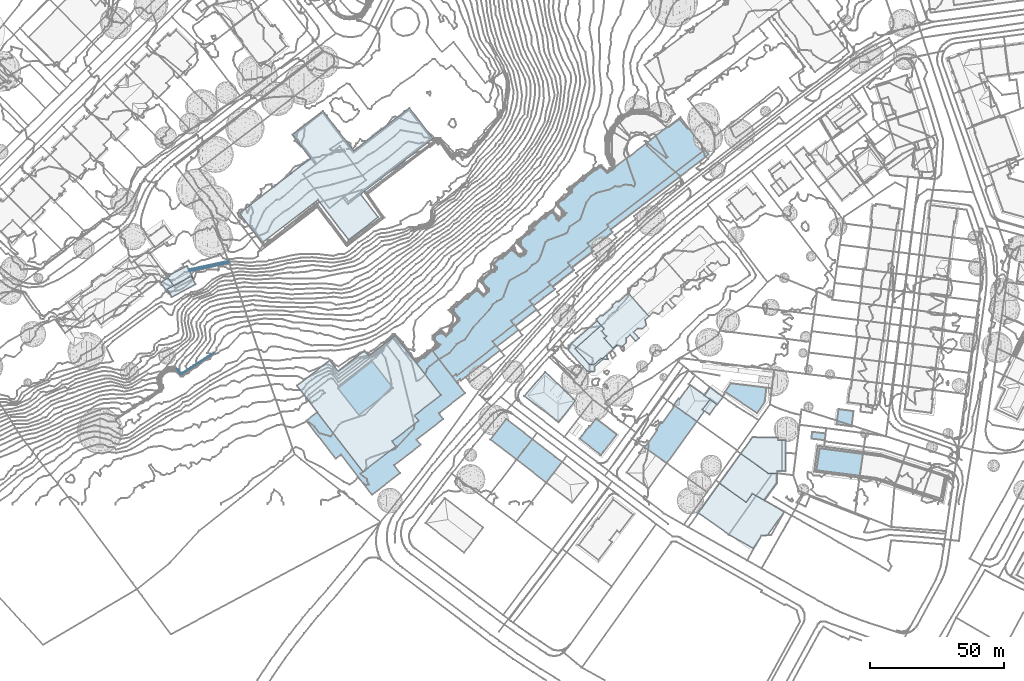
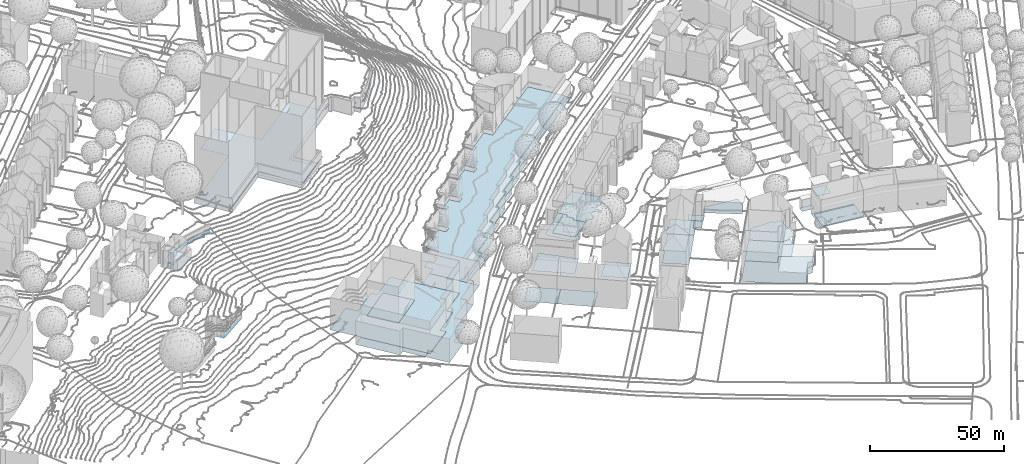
# Not in any storey, part 6 of 494: 26 footings.
"""IFC2X3 model written with IfcOpenShell, lengths in metres."""

from ifc_helpers import new_model, si_unit, frame, origin_with_axes, place, context, subcontext, project, faceted_brep, element, save


model = new_model("IFC2X3")

# Units and contexts
model_context = context("Model", 3, precision=1e-05, world=origin_with_axes())
body_context = subcontext(model_context, "Body", "Model", "MODEL_VIEW")
ifc_project = project(units=[si_unit("AREAUNIT", "SQUARE_METRE"), si_unit("LENGTHUNIT", "METRE")], contexts=[model_context])

# Footings
footing_1_placement = place(None, frame((340.8067320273, 67.2771160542, 499.5586), z_axis=(0.0, 0.0, 1.0), x_axis=(1.0, 0.0, 0.0)))
element("IfcFooting", 1, at=footing_1_placement, Name="Floor 0", PredefinedType="STRIP_FOOTING", context=body_context, shape_type="Brep", body=[
    faceted_brep([(6.0359999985, -10.3291000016, 0.095), (7.5929999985, -9.2568000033, 0.095), (6.2359999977, -10.5556000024, 0.095), (7.5969999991, -9.3476000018, 0.095), (7.3299999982, -9.1816000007, 0.095), (5.9439999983, 5.8046999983, 0.0), (7.3550000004, 7.0566999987, 0.0), (5.9859999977, 5.0351999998, 0.0), (5.8999999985, 5.1328999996, 0.0), (8.0399999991, 7.0283999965, 0.0), (8.1259999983, 6.9316999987, 0.0), (11.7049999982, 10.2568999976, 0.0), (19.4529999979, 1.5312999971, 0.0), (11.699000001, 10.0976999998, 0.0), (12.5170000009, -5.3916000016, 0.0), (2.7839999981, -3.1435000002, 0.0), (15.1950000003, -3.0205000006, 0.0), (0.0379999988, 0.5615999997, 0.0), (1.4869999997, 1.8486999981, 0.0), (0.0, 0.0, 0.0), (2.1490000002, 1.8105999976, 0.0), (2.2349999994, 1.7138999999, 0.0), (3.6270000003, -5.9501000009, 0.0), (1.862999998, -3.9589000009, 0.0), (18.0460000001, 0.2822999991, 0.0), (16.8829999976, -3.1611000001, 0.0), (13.7280000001, -4.3193000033, 0.0), (18.4919999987, -1.7119000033, 0.0), (15.7719999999, -6.5732000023, 0.0), (14.5480000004, -7.6601000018, 0.0), (7.3299999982, -9.1816000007, 0.0), (11.0419999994, -6.6972000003, 0.0), (6.0359999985, -10.3291000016, 0.0), (2.8039999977, -6.6796000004, 0.0), (8.8339999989, -9.6103000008, 0.0), (10.9439999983, -8.3740000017, 0.0), (9.3159999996, -9.8183000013, 0.0), (9.0009999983, -9.7988000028, 0.0)], [[[0, 1, 2]], [[3, 2, 1]], [[0, 4, 1]], [[5, 6, 7]], [[8, 5, 7]], [[9, 10, 6]], [[11, 12, 13]], [[7, 14, 15]], [[6, 10, 7]], [[7, 10, 16]], [[17, 18, 19]], [[20, 21, 18]], [[21, 15, 19]], [[19, 18, 21]], [[22, 23, 15]], [[7, 15, 21]], [[13, 24, 10]], [[24, 25, 16]], [[10, 24, 16]], [[7, 16, 26]], [[14, 7, 26]], [[25, 24, 27]], [[26, 28, 29]], [[29, 14, 26]], [[30, 22, 31]], [[32, 33, 22]], [[22, 30, 32]], [[31, 34, 30]], [[15, 31, 22]], [[34, 31, 35]], [[36, 37, 34]], [[34, 35, 36]], [[31, 15, 14]], [[13, 12, 24]]]),
])
footing_2_placement = place(None, frame((330.2977320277, 56.1951160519, 500.0165), z_axis=(0.0, 0.0, 1.0), x_axis=(1.0, 0.0, 0.0)))
element("IfcFooting", 2, at=footing_2_placement, Name="Floor 0", PredefinedType="STRIP_FOOTING", context=body_context, shape_type="Brep", body=[
    faceted_brep([(2.4809999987, 0.6220999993, -0.028), (12.0229999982, -3.1611000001, -0.028), (7.6979999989, -5.254900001, -0.028), (9.4509999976, -5.4442999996, -0.028), (12.6629999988, -3.0986000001, -0.028), (13.3129999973, 4.4024000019, -0.028), (12.1620000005, 9.2149000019, -0.028), (13.2929999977, 7.938500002, -0.028), (12.3719999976, 7.1231000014, -0.028), (16.7449999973, 0.5263999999, -0.028), (14.1359999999, 5.1319000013, -0.028), (0.1019999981, 1.5967000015, 0.0), (2.4809999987, 0.6220999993, 0.0), (0.0, 0.0, 0.0), (7.6979999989, -5.254900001, 0.0), (10.6409999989, 10.932599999, 0.0), (6.9910000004, -7.8768999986, 0.0), (9.8019999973, -6.0546999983, 0.0), (9.3449999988, -8.0175999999, 0.0), (9.7049999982, -7.7245999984, 0.0), (9.4509999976, -5.4442999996, 0.0), (12.0229999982, -3.1611000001, 0.0), (12.1620000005, 9.2149000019, 0.0), (12.6629999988, -3.0986000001, 0.0), (14.3640000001, -2.9481999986, 0.0), (12.8499999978, -3.316399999, 0.0), (14.6799999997, -3.3037, 0.0), (14.5249999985, -3.4404000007, 0.0), (14.3189999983, -1.6279000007, 0.0)], [[[0, 1, 2]], [[3, 2, 1]], [[4, 1, 5]], [[0, 5, 1]], [[6, 7, 8]], [[8, 0, 6]], [[9, 4, 5]], [[5, 8, 10]], [[5, 0, 8]], [[11, 12, 13]], [[14, 13, 12]], [[15, 12, 11]], [[14, 16, 13]], [[16, 17, 18]], [[17, 19, 18]], [[14, 17, 16]], [[20, 21, 17]], [[20, 17, 14]], [[15, 22, 12]], [[23, 24, 25]], [[25, 21, 23]], [[24, 26, 27]], [[27, 25, 24]], [[28, 24, 23]], [[25, 17, 21]]]),
])
footing_3_placement = place(None, frame((388.6417320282, 40.6092160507, 499.4665), z_axis=(0.0, 0.0, 1.0), x_axis=(1.0, 0.0, 0.0)))
element("IfcFooting", 3, at=footing_3_placement, Name="Floor 0", PredefinedType="STRIP_FOOTING", context=body_context, shape_type="Brep", body=[
    faceted_brep([(11.9599999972, -7.9247999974, 0.0), (2.1380000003, 3.2187000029, 0.0), (14.8159999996, -3.6132999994, 0.0), (15.425999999, 1.5498000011, 0.0), (0.0, 0.0, 0.0)], [[[0, 1, 2]], [[1, 3, 2]], [[0, 4, 1]]]),
])
footing_4_placement = place(None, frame((369.4907320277, 35.7234160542, 499.6315), z_axis=(0.0, 0.0, 1.0), x_axis=(1.0, 0.0, 0.0)))
element("IfcFooting", 4, at=footing_4_placement, Name="Floor 0", PredefinedType="STRIP_FOOTING", context=body_context, shape_type="Brep", body=[
    faceted_brep([(16.2229999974, 0.1318999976, -0.038), (16.629999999, 4.2685999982, -0.038), (18.318, 3.0195999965, -0.038), (11.4210000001, 3.5898999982, -0.038), (13.5739999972, 6.5800999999, -0.038), (10.6519999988, -1.7890000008, -0.021), (11.4769999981, -2.2109000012, -0.021), (11.3949999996, -2.3252000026, -0.021), (13.4670000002, 2.1171999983, -0.021), (16.0519999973, 0.2548999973, -0.021), (13.3389999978, -3.5127000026, -0.021), (11.4210000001, 3.5898999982, 0.0), (10.6519999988, -1.7890000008, 0.0), (4.4399999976, -3.1738000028, 0.0), (13.4670000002, 2.1171999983, 0.0), (2.1679999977, 2.1728999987, 0.0), (5.9979999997, 7.495199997, 0.0), (11.3649999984, -2.3027000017, 0.0), (8.5969999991, -6.1464000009, 0.0), (0.5480000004, -0.3916000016, 0.0), (1.7650000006, 2.4628999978, 0.0), (0.0, 0.0, 0.0)], [[[0, 1, 2]], [[3, 4, 1]], [[1, 0, 3]], [[5, 6, 7]], [[5, 8, 6]], [[9, 10, 6]], [[6, 8, 9]], [[11, 12, 13]], [[12, 11, 14]], [[15, 16, 11]], [[15, 11, 13]], [[17, 18, 12]], [[15, 19, 20]], [[15, 13, 19]], [[21, 20, 19]], [[12, 18, 13]]]),
])
footing_5_placement = place(None, frame((313.8287320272, 39.0809160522, 500.1915), z_axis=(0.0, 0.0, 1.0), x_axis=(1.0, 0.0, 0.0)))
element("IfcFooting", 5, at=footing_5_placement, Name="Floor 0", PredefinedType="STRIP_FOOTING", context=body_context, shape_type="Brep", body=[
    faceted_brep([(18.2580000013, -1.0645000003, 0.0), (18.9620000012, -1.7364000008, 0.0), (12.8499999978, -9.7138999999, 0.0), (14.7749999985, 2.2626999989, 0.0), (0.0, 0.0, 0.0), (12.0370000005, 4.8768999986, 0.0), (7.7670000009, 8.9550000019, 0.0)], [[[0, 1, 2]], [[3, 0, 2]], [[2, 4, 3]], [[3, 4, 5]], [[5, 4, 6]]]),
])
footing_6_placement = place(None, frame((207.679732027, 107.243916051, 526.7712), z_axis=(0.0, 0.0, 1.0), x_axis=(1.0, 0.0, 0.0)))
element("IfcFooting", 6, at=footing_6_placement, Name="Floor 0", PredefinedType="STRIP_FOOTING", context=body_context, shape_type="Brep", body=[
    faceted_brep([(70.1979999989, 26.2774000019, -0.0001), (70.5199999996, 26.6036000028, -0.0001), (70.5579999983, 26.5547000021, -0.0001), (70.1600000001, 26.327200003, -0.0001), (72.0789999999, 27.8008000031, -0.0001), (61.7960000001, 37.9942000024, -0.0001), (63.3579999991, 39.193400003, -0.0001), (61.4549999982, 37.7314999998, -0.0001), (55.8610000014, 33.433600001, -0.0001), (64.6000000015, 22.0567000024, -0.0001), (61.4230000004, 37.7735000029, -0.0001), (64.3000000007, 21.7422000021, -0.0001), (64.6409999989, 22.0039000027, -0.0001), (52.7609999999, 12.8692000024, -0.0001), (52.4279999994, 12.6123000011, -0.0001), (52.379999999, 12.6749000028, -0.0001), (58.7029999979, 17.4375, -0.0001), (58.3619999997, 17.1758000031, -0.0001), (58.6579999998, 17.496100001, -0.0001), (55.5199999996, 33.1709000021, -0.0001), (64.2589999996, 21.7950000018, -0.0001), (49.9210000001, 28.8692000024, -0.0001), (58.3169999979, 17.2344000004, -0.0001), (52.7129999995, 12.9317000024, -0.0001), (43.9780000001, 24.3008000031, -0.0001), (43.6449999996, 24.0450000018, -0.0001), (46.7410000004, 8.3438000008, -0.0001), (42.5669999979, 23.2168000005, -0.0001), (61.7639999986, 38.0362000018, -0.0001), (49.5799999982, 28.6064999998, -0.0001), (49.8920000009, 28.9053000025, -0.0001), (55.4890000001, 33.2110000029, -0.0001), (55.8299999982, 33.4737000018, -0.0001), (49.550999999, 28.6436000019, -0.0001), (43.6169999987, 24.0811000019, -0.0001), (43.9499999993, 24.3370000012, -0.0001), (32.4160000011, 36.5752000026, 0.0), (32.6779999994, 36.2334000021, 0.0), (32.3229999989, 36.5030000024, 0.0), (41.4869999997, 24.6192000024, -0.0001), (41.5639999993, 24.6788000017, -0.0001), (41.8269999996, 24.3370000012, -0.0001), (37.256000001, 30.2803000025, 0.0), (36.9079999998, 30.5567000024, 0.0), (36.9930000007, 30.6231000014, 0.0), (41.75, 24.2774000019, -0.0001), (26.550999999, 20.4101999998, 0.0), (46.4499999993, 8.0157000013, -0.0001), (46.3999999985, 8.0821000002, -0.0001), (46.7910000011, 8.2774000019, -0.0001), (45.1660000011, 7.0274000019, -0.0001), (29.2599999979, 4.9786000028, -0.0001), (45.379999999, 7.192400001, -0.0001), (45.3289999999, 7.2588, -0.0001), (26.5260000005, 20.5206000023, 0.0), (51.7039999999, -1.4736000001, -0.0001), (40.7190000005, -9.9217999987, -0.0001), (25.4849999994, 19.5899000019, 0.0), (25.1440000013, 19.3282000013, 0.0), (19.5390000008, 15.0196000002, 0.0), (8.4690000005, -11.0126999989, -0.0001), (7.6369999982, 5.871100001, 0.0), (19.1979999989, 14.7578999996, 0.0), (13.5839999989, 10.4415000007, 0.0), (13.2509999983, 10.1856000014, 0.0), (7.2879999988, 5.6026000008, 0.0), (13.1909999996, 10.264700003, 0.0), (7.5779999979, 5.9483000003, 0.0), (1.6979999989, 1.3047000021, 0.0), (25.0810000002, 19.4101999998, 0.0), (19.4769999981, 15.0997000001, 0.0), (37.1710000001, 30.2159000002, 0.0), (26.487999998, 20.4922000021, 0.0), (25.4219999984, 19.6719000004, 0.0), (32.5859999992, 36.1631000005, 0.0), (19.7520000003, 29.3311000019, 0.0), (31.1119999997, 38.0743000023, 0.0), (1.3570000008, 1.0430000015, 0.0), (1.6400000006, 1.379900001, 0.0), (1.2989999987, 1.1182000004, 0.0), (0.0, 0.0, 0.0), (19.1359999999, 14.8379000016, 0.0), (13.5229999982, 10.5206000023, 0.0), (7.2289999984, 5.6788000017, 0.0)], [[[0, 1, 2]], [[1, 0, 3]], [[4, 5, 6]], [[7, 1, 3]], [[7, 3, 8]], [[8, 3, 9]], [[7, 5, 1]], [[1, 5, 4]], [[7, 10, 5]], [[11, 9, 12]], [[13, 14, 15]], [[16, 17, 18]], [[19, 20, 21]], [[9, 20, 19]], [[21, 20, 18]], [[18, 17, 22]], [[22, 23, 24]], [[18, 22, 21]], [[13, 15, 23]], [[23, 15, 25]], [[26, 27, 15]], [[9, 11, 20]], [[9, 19, 8]], [[5, 10, 28]], [[29, 21, 22]], [[22, 24, 29]], [[21, 29, 30]], [[31, 32, 19]], [[19, 32, 8]], [[30, 29, 33]], [[25, 34, 35]], [[35, 24, 25]], [[15, 27, 25]], [[36, 37, 38]], [[39, 40, 41]], [[42, 43, 44]], [[39, 41, 45]], [[46, 45, 27]], [[24, 23, 25]], [[47, 48, 49]], [[50, 51, 46]], [[52, 50, 53]], [[53, 27, 48]], [[26, 48, 27]], [[39, 45, 46]], [[26, 49, 48]], [[53, 50, 46]], [[53, 46, 27]], [[46, 54, 39]], [[55, 56, 50]], [[57, 51, 58]], [[57, 46, 51]], [[51, 59, 58]], [[56, 51, 50]], [[51, 60, 61]], [[62, 59, 51]], [[63, 62, 51]], [[64, 51, 61]], [[61, 60, 65]], [[64, 66, 63]], [[64, 63, 51]], [[65, 67, 61]], [[68, 65, 60]], [[58, 69, 57]], [[59, 62, 70]], [[71, 54, 43]], [[71, 39, 54]], [[54, 46, 72]], [[57, 69, 73]], [[54, 74, 43]], [[75, 76, 38]], [[38, 74, 75]], [[75, 74, 54]], [[37, 74, 38]], [[71, 43, 42]], [[68, 77, 78]], [[68, 60, 77]], [[79, 78, 77]], [[80, 77, 60]], [[62, 81, 70]], [[82, 63, 66]], [[65, 83, 67]]]),
])
footing_7_placement = place(None, frame((211.8297320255, 101.9383160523, 526.7541), z_axis=(0.0, 0.0, 1.0), x_axis=(1.0, 0.0, 0.0)))
element("IfcFooting", 7, at=footing_7_placement, Name="Floor 16", PredefinedType="STRIP_FOOTING", context=body_context, shape_type="Brep", body=[
    faceted_brep([(93.6900000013, 43.4589999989, 0.0), (91.6669999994, 40.2412, 0.0), (93.1030000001, 43.7021000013, 0.0), (92.2200000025, 39.9149999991, 0.0), (85.1559999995, 32.0498000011, 0.0), (85.6270000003, 31.621100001, 0.0), (79.0080000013, 26.1094000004, 0.0), (78.9220000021, 25.1425999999, 0.0), (77.5540000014, 27.0381000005, 0.0), (77.6790000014, 27.9521000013, 0.0), (75.3410000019, 26.0830000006, 0.0), (70.7380000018, 31.3691000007, 0.0), (70.8990000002, 32.2324000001, 0.0), (69.9759999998, 31.6328000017, 0.0), (69.8550000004, 30.7969000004, 0.0), (68.9820000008, 31.8183000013, 0.0), (43.5920000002, 12.5654000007, 0.0), (69.0769999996, 32.6875, 0.0), (75.2160000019, 25.1708999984, 0.0), (49.7470000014, 3.6680000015, 0.0), (48.870000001, 3.8192999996, 0.0), (35.5850000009, -6.5419999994, 0.0), (35.7190000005, -5.6611000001, 0.0), (42.7239999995, 12.7030999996, 0.0), (24.8300000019, 7.7958999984, 0.0), (5.3460000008, -6.2685999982, 0.0), (24.9539999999, 8.6893999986, 0.0), (5.2149999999, -7.1689999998, 0.0), (0.0, 0.0, 0.0), (0.5140000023, 0.3740000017, 0.0)], [[[0, 1, 2]], [[0, 3, 1]], [[4, 5, 6]], [[4, 1, 5]], [[1, 3, 5]], [[6, 5, 7]], [[8, 9, 6]], [[7, 8, 6]], [[10, 11, 12]], [[13, 14, 15]], [[15, 16, 17]], [[17, 13, 15]], [[9, 8, 10]], [[12, 11, 13]], [[14, 13, 11]], [[11, 10, 18]], [[10, 8, 18]], [[19, 20, 16]], [[19, 21, 20]], [[22, 20, 21]], [[17, 16, 23]], [[23, 16, 20]], [[24, 25, 26]], [[22, 24, 26]], [[27, 28, 25]], [[25, 24, 27]], [[29, 25, 28]], [[24, 22, 21]]]),
])
footing_8_placement = place(None, frame((211.8297320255, 101.9383160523, 526.7541), z_axis=(0.0, 0.0, 1.0), x_axis=(1.0, 0.0, 0.0)))
element("IfcFooting", 8, at=footing_8_placement, Name="Floor 17", PredefinedType="STRIP_FOOTING", context=body_context, shape_type="Brep", body=[
    faceted_brep([(-23.0159999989, -15.6611000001, -0.6119), (-7.8469999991, -13.1435999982, -0.6119), (-22.8649999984, -16.3652999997, -0.6119), (-7.9979999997, -12.4395000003, -0.6119)], [[[0, 1, 2]], [[1, 0, 3]]]),
])
footing_9_placement = place(None, frame((211.8297320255, 101.9383160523, 526.7541), z_axis=(0.0, 0.0, 1.0), x_axis=(1.0, 0.0, 0.0)))
element("IfcFooting", 9, at=footing_9_placement, Name="Floor 18", PredefinedType="STRIP_FOOTING", context=body_context, shape_type="Brep", body=[
    faceted_brep([(-13.8379999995, -46.5898999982, -17.0634), (-13.6510000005, -46.8759999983, -17.0634), (-26.0409999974, -54.9580000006, -17.0634)], [[[0, 1, 2]]]),
])
footing_10_placement = place(None, frame((211.8297320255, 101.9383160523, 526.7541), z_axis=(0.0, 0.0, 1.0), x_axis=(1.0, 0.0, 0.0)))
element("IfcFooting", 10, at=footing_10_placement, Name="Floor 19", PredefinedType="STRIP_FOOTING", context=body_context, shape_type="Brep", body=[
    faceted_brep([(-26.367999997, -53.6319000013, -17.0634), (-26.6359999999, -53.8544999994, -17.0634), (-27.7089999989, -52.5527999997, -17.0633), (-25.9169999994, -54.4677999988, -17.0634), (-13.8379999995, -46.5898999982, -17.0634), (-26.0409999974, -54.9580000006, -17.0634)], [[[0, 1, 2]], [[0, 3, 1]], [[4, 5, 3]], [[5, 1, 3]]]),
])
footing_11_placement = place(None, frame((386.5667320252, 6.5633160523, 499.0235), z_axis=(0.0, 0.0, 1.0), x_axis=(1.0, 0.0, 0.0)))
element("IfcFooting", 11, at=footing_11_placement, Name="Floor 0", PredefinedType="STRIP_FOOTING", context=body_context, shape_type="Brep", body=[
    faceted_brep([(7.8980000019, 11.0351000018, 0.0), (15.012000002, 5.9472000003, 0.0), (0.0, 0.0, 0.0), (12.2230000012, -3.8456999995, 0.0), (7.1210000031, -5.0947000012, 0.0), (9.9030000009, -7.0859999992, 0.0), (18.1740000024, 3.6854999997, 0.0), (21.393000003, 3.6981999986, 0.0), (21.2810000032, 0.3359000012, 0.0), (16.7939999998, -6.4395000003, 0.0), (16.6450000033, -6.1513999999, 0.0), (16.8920000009, -6.3027999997, 0.0)], [[[0, 1, 2]], [[1, 3, 2]], [[4, 3, 5]], [[2, 3, 4]], [[1, 6, 3]], [[7, 8, 6]], [[9, 3, 10]], [[10, 11, 9]], [[8, 10, 3]], [[3, 6, 8]]]),
])
footing_12_placement = place(None, frame((378.6967320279, -4.4298839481, 499.0235), z_axis=(0.0, 0.0, 1.0), x_axis=(1.0, 0.0, 0.0)))
element("IfcFooting", 12, at=footing_12_placement, Name="Floor 0", PredefinedType="STRIP_FOOTING", context=body_context, shape_type="Brep", body=[
    faceted_brep([(31.9169999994, 0.3066999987, 0.0), (25.7539999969, -8.3183000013, 0.0), (29.0299999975, 2.0751999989, 0.0), (23.425999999, -8.5088, 0.0), (21.5539999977, 6.3183999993, 0.0), (17.7729999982, 3.9072000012, 0.0), (20.0929999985, 7.1475000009, 0.0), (7.8699999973, 10.9932000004, 0.0), (7.1319999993, -5.0986000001, 0.0), (24.1999999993, -8.4648000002, 0.0), (11.6140000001, -8.3007999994, 0.0), (22.2249999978, -10.6083999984, 0.0), (20.3409999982, -13.2430999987, 0.0), (0.0, 0.0, 0.0), (11.3049999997, -8.0790999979, 0.0)], [[[0, 1, 2]], [[3, 4, 2]], [[3, 5, 4]], [[4, 5, 6]], [[7, 5, 8]], [[9, 2, 1]], [[3, 10, 5]], [[11, 10, 3]], [[11, 12, 10]], [[8, 13, 7]], [[5, 10, 14]], [[8, 5, 14]], [[9, 3, 2]]]),
])
footing_13_placement = place(None, frame((394.4647320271, 17.5984160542, 499.0235), z_axis=(0.0, 0.0, 1.0), x_axis=(1.0, 0.0, 0.0)))
element("IfcFooting", 13, at=footing_13_placement, Name="Floor 0", PredefinedType="STRIP_FOOTING", context=body_context, shape_type="Brep", body=[
    faceted_brep([(0.0, 0.0, 0.0), (3.7740000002, 5.2734999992, 0.0), (10.2760000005, -7.3496000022, 0.0), (13.938000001, 5.995199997, 0.0), (4.3720000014, 6.1025999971, 0.0), (13.9409999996, 5.0370999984, 0.0), (11.7419999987, -7.3427000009, 0.0), (13.6490000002, -6.4091000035, 0.0), (12.8969999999, -7.3437000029, 0.0), (11.8640000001, -7.3427000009, 0.0), (13.495000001, -7.3369000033, 0.0), (15.4910000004, 5.0146999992, 0.0), (15.3619999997, -6.433600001, 0.0), (16.7879999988, 4.995199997, 0.0), (13.6359999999, -7.3623000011, 0.0), (16.6579999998, -6.4521000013, 0.0), (13.493999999, -7.3613000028, 0.0)], [[[0, 1, 2]], [[3, 1, 4]], [[2, 1, 5]], [[6, 2, 7]], [[8, 9, 7]], [[6, 7, 9]], [[1, 3, 5]], [[5, 7, 2]], [[7, 10, 8]], [[11, 12, 7]], [[11, 7, 5]], [[11, 13, 12]], [[7, 14, 10]], [[12, 13, 15]], [[14, 16, 10]]]),
])
footing_14_placement = place(None, frame((420.8027320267, 23.1951160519, 499.3155), z_axis=(0.0, 0.0, 1.0), x_axis=(1.0, 0.0, 0.0)))
element("IfcFooting", 14, at=footing_14_placement, Name="Floor 0", PredefinedType="STRIP_FOOTING", context=body_context, shape_type="Brep", body=[
    faceted_brep([(5.0469999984, -0.6405999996, 0.0), (0.0, 0.0, 0.0), (5.3189999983, 1.8975000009, 0.0), (0.3220000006, 2.5313000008, 0.0)], [[[0, 1, 2]], [[3, 2, 1]]]),
])
footing_15_placement = place(None, frame((310.929732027, 15.368916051, 513.3392), z_axis=(0.0, 0.0, 1.0), x_axis=(1.0, 0.0, 0.0)))
element("IfcFooting", 15, at=footing_15_placement, Name="Floor 0", PredefinedType="STRIP_FOOTING", context=body_context, shape_type="Brep", body=[
    faceted_brep([(13.9970000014, -4.753899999, -12.7678), (11.0769999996, -8.5653999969, -12.7678), (0.0, 0.0, -12.7677), (10.8709999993, 3.7735000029, -12.7678), (14.2729999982, 1.1446000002, -12.7678), (16.938000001, -0.9149999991, -12.7678), (2.9210000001, 3.8106000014, -12.7677), (5.8610000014, 7.6456000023, -12.7677)], [[[0, 1, 2]], [[3, 4, 0]], [[0, 4, 5]], [[6, 3, 0]], [[3, 6, 7]], [[0, 2, 6]]]),
])
footing_16_placement = place(None, frame((301.1767320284, 22.9119160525, 500.5715), z_axis=(0.0, 0.0, 1.0), x_axis=(1.0, 0.0, 0.0)))
element("IfcFooting", 16, at=footing_16_placement, Name="Floor 0", PredefinedType="STRIP_FOOTING", context=body_context, shape_type="Brep", body=[
    faceted_brep([(9.7529999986, -7.5430000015, 0.0), (0.0, 0.0, 0.0), (12.6739999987, -3.7324000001, 0.0), (5.8659999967, 7.5850000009, 0.0), (15.6140000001, 0.1026000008, 0.0)], [[[0, 1, 2]], [[2, 3, 4]], [[3, 2, 1]]]),
])
footing_17_placement = place(None, frame((334.417732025, 23.1512160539, 500.1795), z_axis=(0.0, 0.0, 1.0), x_axis=(1.0, 0.0, 0.0)))
element("IfcFooting", 17, at=footing_17_placement, Name="Floor 0", PredefinedType="STRIP_FOOTING", context=body_context, shape_type="Brep", body=[
    faceted_brep([(12.5370000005, -0.1338, 0.0), (11.0450000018, -2.0791000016, 0.0), (10.7310000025, 3.9375, 0.0), (13.8380000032, 1.5643999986, 0.0), (3.8630000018, 4.5702999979, 0.0), (8.2170000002, 5.8574000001, 0.0), (6.0840000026, 7.4862999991, 0.0), (2.5240000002, 3.3055999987, 0.0), (3.6270000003, 4.75, 0.0), (4.0270000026, -3.0752000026, 0.0), (9.7310000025, -3.7959000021, 0.0), (8.8570000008, -4.9356000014, 0.0), (7.6610000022, -5.8506000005, 0.0), (7.7160000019, -5.8936000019, 0.0), (7.9730000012, -6.0899000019, 0.0), (0.0, 0.0, 0.0)], [[[0, 1, 2]], [[2, 3, 0]], [[2, 4, 5]], [[5, 4, 6]], [[7, 8, 4]], [[4, 2, 9]], [[9, 7, 4]], [[2, 1, 9]], [[10, 11, 12]], [[12, 11, 13]], [[11, 14, 13]], [[10, 12, 9]], [[15, 7, 9]], [[1, 10, 9]]]),
])
footing_18_placement = place(None, frame((430.1957320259, 28.5057160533, 499.7544), z_axis=(0.0, 0.0, 1.0), x_axis=(1.0, 0.0, 0.0)))
element("IfcFooting", 18, at=footing_18_placement, Name="Floor 0", PredefinedType="STRIP_FOOTING", context=body_context, shape_type="Brep", body=[
    faceted_brep([(6.3170000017, 4.9305999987, 0.0), (0.0, 0.0, 0.0), (0.7470000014, 5.6649999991, 0.0), (5.6220000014, -0.7412, 0.0)], [[[0, 1, 2]], [[1, 0, 3]]]),
])
footing_19_placement = place(None, frame((358.3217320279, 20.123816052, 499.6315), z_axis=(0.0, 0.0, 1.0), x_axis=(1.0, 0.0, 0.0)))
element("IfcFooting", 19, at=footing_19_placement, Name="Floor 0", PredefinedType="STRIP_FOOTING", context=body_context, shape_type="Brep", body=[
    faceted_brep([(15.6089999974, 12.4248000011, 0.0), (5.0409999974, 6.2529999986, 0.0), (6.935999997, 8.884800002, 0.0), (11.424999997, 15.1182000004, 0.0), (11.7170000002, 15.2071000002, 0.0), (11.1939999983, 15.5811000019, 0.0), (19.7679999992, 9.4550999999, 0.0), (8.5529999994, -6.121100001, 0.0), (11.0289999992, 15.4033000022, 0.0), (11.1689999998, 15.5996000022, 0.0), (5.612999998, 7.8399000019, 0.0), (6.557, 9.1581999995, 0.0), (0.5859999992, -0.4188999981, 0.0), (0.5869999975, 0.066399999, 0.0), (4.3979999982, -3.1473999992, 0.0), (0.0, 0.0, 0.0), (0.231999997, 0.3233000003, 0.0), (4.810999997, 6.7197999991, 0.0), (4.6689999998, 6.5205000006, 0.0)], [[[0, 1, 2]], [[2, 3, 4]], [[4, 0, 2]], [[3, 5, 4]], [[6, 7, 0]], [[5, 8, 9]], [[5, 3, 8]], [[10, 11, 2]], [[1, 12, 13]], [[1, 10, 2]], [[0, 14, 1]], [[15, 13, 12]], [[12, 1, 14]], [[13, 15, 16]], [[17, 10, 1]], [[1, 18, 17]], [[0, 7, 14]]]),
])
footing_20_placement = place(None, frame((178.2397320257, 81.0750160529, 523.9414), z_axis=(0.0, 0.0, 1.0), x_axis=(1.0, 0.0, 0.0)))
element("IfcFooting", 20, at=footing_20_placement, Name="Floor 0", PredefinedType="STRIP_FOOTING", context=body_context, shape_type="Brep", body=[
    faceted_brep([(0.2149999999, 0.1563000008, 0.0), (0.1559999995, 0.2373000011, 0.0), (2.7190000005, 2.1699000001, 0.0), (0.8220000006, -0.7118999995, 0.0), (0.4739999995, -0.629900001, 0.0), (0.0, 0.0, 0.0), (1.9979999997, -2.3300999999, 0.0), (2.5390000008, -2.120099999, 0.0), (4.9600000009, -0.8066000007, 0.0), (3.3790000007, -3.6669999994, 0.0), (2.6180000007, -3.1552999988, 0.0), (1.9710000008, -2.6182000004, 0.0), (2.4609999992, -3.2695000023, 0.0), (3.125, -3.8524999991, 0.0), (12.3430000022, 1.7558999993, 0.434), (11.438000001, 2.7109000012, 0.434), (10.9700000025, 4.378899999, 0.434), (12.0439999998, 1.5938000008, 0.434), (10.9450000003, 4.4257999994, 0.434), (4.9600000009, -0.8066000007, 0.434), (9.8520000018, 6.5137000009, 0.434), (3.4539999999, 2.7236000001, 0.434), (3.2140000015, 3.0429999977, 0.434), (2.7190000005, 2.1699000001, 0.434), (3.3790000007, -3.6669999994, -0.227), (2.5390000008, -2.120099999, -0.227), (3.432, -3.6279000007, -0.227), (11.438000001, 2.7109000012, -0.227), (13.0890000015, -0.3300999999, -0.227), (4.2340000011, -5.1387000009, -0.227)], [[[0, 1, 2]], [[2, 3, 0]], [[0, 4, 5]], [[6, 3, 7]], [[3, 4, 0]], [[2, 7, 3]], [[7, 2, 8]], [[9, 10, 7]], [[11, 10, 12]], [[10, 9, 13]], [[10, 11, 6]], [[6, 7, 10]], [[14, 15, 16]], [[14, 17, 15]], [[18, 16, 19]], [[20, 18, 19]], [[15, 19, 16]], [[21, 20, 19]], [[20, 21, 22]], [[19, 23, 21]], [[24, 25, 26]], [[27, 28, 26]], [[26, 25, 27]], [[28, 29, 26]]]),
])
footing_21_placement = place(None, frame((287.111732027, 46.2742160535, 500.3625), z_axis=(0.0, 0.0, 1.0), x_axis=(1.0, 0.0, 0.0)))
element("IfcFooting", 21, at=footing_21_placement, Name="Floor 0", PredefinedType="STRIP_FOOTING", context=body_context, shape_type="Brep", body=[
    faceted_brep([(22.9389999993, 19.373999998, 0.0), (31.2809999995, 25.0595999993, 0.0), (23.5199999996, 19.0859999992, 0.0), (14.9120000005, 13.1963, 0.0), (23.5540000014, 19.0409999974, 0.0), (23.4169999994, 18.936499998, 0.0), (21.7800000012, 20.8798999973, 0.0), (30.180999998, 26.4892999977, 0.0), (16.1149999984, 11.6327999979, 0.0), (34.0, 29.4287, 0.0), (30.2039999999, 26.5136999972, 0.0), (29.7670000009, 27.0273999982, 0.0), (37.3959999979, 33.5605999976, 0.0), (28.7509999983, 28.3476999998, 0.0), (37.3500000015, 33.7157999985, 0.0), (1.2320000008, 0.9492000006, 0.0), (1.6050000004, 0.4657999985, 0.0), (0.0, 0.0, 0.0), (1.6099999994, -1.8729999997, 0.0), (1.998999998, -2.3779000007, 0.0), (1.8920000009, -2.4599000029, 0.0), (2.7769999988, -0.9765000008, 0.0), (24.5659999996, 17.436499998, 0.0), (16.6169999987, 11.3145000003, 0.0), (17.7509999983, 9.8407999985, 0.0), (3.1019999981, -1.3984000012, 0.0), (58.932, 54.9345999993, 0.0), (58.943, 54.7890999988, 0.0), (51.1259999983, 48.7148999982, 0.0), (50.3110000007, 49.7714999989, 0.0), (59.6220000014, 53.9013999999, 0.0), (51.7800000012, 47.8662, 0.0), (43.0359999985, 42.4872999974, 0.0), (43.8249999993, 41.4657999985, 0.0), (57.6119999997, 56.6493999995, 0.0), (94.0659999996, 84.7060999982, 0.0), (58.2199999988, 55.8594000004, 0.0), (95.4860000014, 82.8574000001, 0.0), (59.006000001, 54.8378999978, 0.0), (45.1600000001, 39.7275999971, 0.0), (36.5020000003, 34.3154000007, 0.0), (35.7699999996, 35.2655999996, 0.0), (44.4059999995, 40.7099999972, 0.0), (38.131000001, 32.6006000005, 0.0), (37.4419999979, 33.5956999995, 0.0), (51.7580000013, 47.7001999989, 0.0), (52.3969999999, 46.8603999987, 0.0), (51.8519999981, 47.7724999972, 0.0)], [[[0, 1, 2]], [[0, 2, 3]], [[2, 4, 5]], [[5, 3, 2]], [[6, 7, 0]], [[5, 8, 3]], [[9, 10, 11]], [[9, 11, 12]], [[10, 7, 11]], [[6, 11, 7]], [[0, 7, 1]], [[13, 14, 11]], [[15, 16, 17]], [[16, 18, 17]], [[18, 19, 20]], [[20, 17, 18]], [[16, 21, 18]], [[22, 23, 8]], [[8, 5, 22]], [[21, 16, 23]], [[24, 25, 21]], [[21, 23, 24]], [[16, 8, 23]], [[26, 27, 28]], [[28, 29, 26]], [[27, 30, 28]], [[31, 32, 28]], [[28, 30, 31]], [[31, 33, 32]], [[34, 35, 36]], [[29, 36, 26]], [[35, 37, 36]], [[27, 26, 38]], [[26, 36, 37]], [[39, 14, 40]], [[40, 41, 42]], [[12, 11, 14]], [[9, 12, 43]], [[12, 14, 44]], [[40, 14, 13]], [[33, 45, 46]], [[45, 31, 47]], [[40, 42, 39]], [[42, 33, 46]], [[41, 33, 42]], [[45, 33, 31]]]),
])
footing_22_placement = place(None, frame((287.111732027, 46.2742160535, 500.3625), z_axis=(0.0, 0.0, 1.0), x_axis=(1.0, 0.0, 0.0)))
element("IfcFooting", 22, at=footing_22_placement, Name="Floor 1", PredefinedType="STRIP_FOOTING", context=body_context, shape_type="Brep", body=[
    faceted_brep([(-33.4110000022, -35.375, 0.271), (-22.550999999, -24.0175999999, 0.271), (-21.1009999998, -25.9004000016, 0.271), (-14.2050000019, -14.4053000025, 0.271), (-12.6649999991, -16.4072000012, 0.271), (-42.6979999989, 2.1601999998, 0.2711), (-13.7170000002, 5.3818999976, 0.271), (-4.3040000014, -6.7851000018, 0.271), (-13.6860000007, 5.4052999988, 0.271), (-31.2890000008, 7.7841999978, 0.2711), (-50.3640000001, -13.1611000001, 0.271), (-50.4539999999, -13.2303999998, 0.271), (-57.9750000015, -3.2422000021, 0.2711), (-45.7670000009, 6.1103999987, 0.2711), (-42.7219999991, 2.1405999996, 0.2711), (-21.3920000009, 15.3955000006, 0.2711), (-32.8040000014, 9.7626999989, 0.2711)], [[[0, 1, 2]], [[1, 3, 4]], [[1, 5, 3]], [[3, 6, 7]], [[8, 7, 6]], [[3, 9, 6]], [[0, 10, 1]], [[10, 0, 11]], [[12, 13, 14]], [[14, 10, 12]], [[5, 1, 14]], [[6, 9, 15]], [[16, 9, 5]], [[5, 9, 3]], [[14, 1, 10]]]),
])
footing_23_placement = place(None, frame((287.111732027, 46.2742160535, 500.3625), z_axis=(0.0, 0.0, 1.0), x_axis=(1.0, 0.0, 0.0)))
element("IfcFooting", 23, at=footing_23_placement, Name="Floor 2", PredefinedType="STRIP_FOOTING", context=body_context, shape_type="Brep", body=[
    faceted_brep([(-42.6830000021, -4.2099000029, 1.8109), (-22.0850000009, -4.2148000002, 1.8109), (-34.8139999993, -14.2206999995, 1.8109), (-29.9539999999, 5.7969000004, 1.8109)], [[[0, 1, 2]], [[1, 0, 3]]]),
])
footing_24_placement = place(None, frame((287.111732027, 46.2742160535, 500.3625), z_axis=(0.0, 0.0, 1.0), x_axis=(1.0, 0.0, 0.0)))
element("IfcFooting", 24, at=footing_24_placement, Name="Floor 3", PredefinedType="STRIP_FOOTING", context=body_context, shape_type="Brep", body=[
    faceted_brep([(-13.5780000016, 5.2626999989, 0.271), (-7.5949999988, 9.8671999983, 0.271), (-4.3040000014, -6.7851000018, 0.271), (-14.2050000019, -14.4053000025, 0.271), (-5.0399999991, -13.5381000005, 0.271), (-12.6649999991, -16.4072000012, 0.271), (-13.3770000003, -23.3603000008, 0.271), (-22.550999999, -24.0175999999, 0.271), (4.6689999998, -6.067400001, 0.271), (-54.4660000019, -16.3104999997, 0.271), (-41.5800000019, -29.0331999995, 0.271), (-43.5249999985, -30.5293000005, 0.271), (-50.4539999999, -13.2303999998, 0.271), (-41.4739999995, -29.0820000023, 0.271), (-41.5170000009, -29.1152000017, 0.271), (-33.4110000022, -35.375, 0.271), (-30.0280000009, -43.9521000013, 0.271), (-4.9169999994, -13.6992000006, 0.271), (-5.0069999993, -13.7685000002, 0.271), (-3.4820000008, -15.7529000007, 0.271), (-21.1009999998, -25.9004000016, 0.271), (-21.7740000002, -32.9541000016, 0.271), (-13.3530000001, -23.3993999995, 0.271), (-11.8669999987, -25.3359000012, 0.271), (-19.5309999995, -35.8729999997, 0.271)], [[[0, 1, 2]], [[3, 2, 4]], [[5, 6, 7]], [[5, 3, 4]], [[8, 2, 1]], [[9, 10, 11]], [[9, 12, 10]], [[13, 14, 10]], [[13, 15, 16]], [[10, 12, 13]], [[12, 15, 13]], [[4, 17, 18]], [[4, 2, 8]], [[5, 18, 19]], [[5, 19, 6]], [[20, 7, 6]], [[15, 20, 21]], [[20, 6, 22]], [[20, 22, 23]], [[21, 20, 23]], [[16, 21, 24]], [[16, 15, 21]], [[18, 5, 4]]]),
])
footing_25_placement = place(None, frame((287.111732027, 46.2742160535, 500.3625), z_axis=(0.0, 0.0, 1.0), x_axis=(1.0, 0.0, 0.0)))
element("IfcFooting", 25, at=footing_25_placement, Name="Floor 4", PredefinedType="STRIP_FOOTING", context=body_context, shape_type="Brep", body=[
    faceted_brep([(94.0659999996, 84.7060999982, 0.246), (79.8079999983, 92.7793000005, 0.246), (84.8759999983, 96.6719000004, 0.246), (73.8330000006, 88.1933999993, 0.246), (65.881000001, 82.0907999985, 0.246), (59.9290000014, 77.5224999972, 0.246), (57.6119999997, 56.6493999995, 0.246), (57.987999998, 76.0321999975, 0.246), (41.8640000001, 60.2568999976, 0.246), (79.7149999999, 92.9023999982, 0.246), (59.8550000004, 77.6171999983, 0.246), (51.1259999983, 48.7148999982, 0.246), (43.0359999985, 42.4872999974, 0.246), (50.3110000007, 49.7714999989, 0.246), (13.373999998, 31.8007999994, 0.246), (27.3409999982, 46.2196999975, 0.246), (58.2199999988, 55.8594000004, 0.246), (57.8099999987, 76.0429999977, 0.246), (39.8319999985, 58.6923999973, 0.246), (30.1050000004, 54.7196999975, 0.2461), (57.9169999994, 76.125, 0.246), (65.805999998, 82.1972999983, 0.246), (48.7690000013, 73.6845999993, 0.2461), (55.5920000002, 78.9257999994, 0.2461), (73.7399999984, 88.3037, 0.246), (44.4690000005, 68.7021999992, 0.2461), (38.7520000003, 64.3017999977, 0.2461), (29.3720000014, 55.6719000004, 0.2461), (37.4019999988, 61.8515999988, 0.2461), (44.305999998, 68.9091999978, 0.2461), (43.6530000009, 69.753899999, 0.2461), (43.8249999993, 41.4657999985, 0.246), (35.7699999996, 35.2655999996, 0.246), (14.9120000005, 13.1963, 0.246), (21.7800000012, 20.8798999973, 0.246), (22.9389999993, 19.373999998, 0.246), (-5.1009999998, 11.7870999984, 0.246), (36.5020000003, 34.3154000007, 0.246), (28.7509999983, 28.3476999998, 0.246), (29.7670000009, 27.0273999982, 0.246), (2.631000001, 20.9150999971, 0.246), (1.6050000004, 0.4657999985, 0.246), (1.2320000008, 0.9492000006, 0.246), (16.1149999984, 11.6327999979, 0.246), (0.0, 0.0, 0.246), (-7.5949999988, 9.8671999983, 0.246), (-0.1440000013, 17.2118999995, 0.246), (-2.5910000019, 15.3271999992, 0.246), (-7.251000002, 14.5810999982, 0.246), (25.2809999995, 44.6347999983, 0.246), (10.425999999, 35.6308999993, 0.246), (16.2939999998, 40.1464999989, 0.246), (22.7939999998, 47.8671999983, 0.246), (24.2609999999, 50.2216999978, 0.2461), (14.9800000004, 41.8544999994, 0.2461), (-0.9030000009, 18.1963, 0.246), (-3.9640000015, 17.1112999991, 0.246), (11.3370000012, 30.4052999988, 0.246), (11.4160000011, 30.2949000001, 0.246), (9.6420000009, 32.5976999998, 0.246), (-0.4759999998, 24.9521999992, 0.246)], [[[0, 1, 2]], [[0, 3, 1]], [[0, 4, 3]], [[5, 4, 6]], [[7, 5, 8]], [[3, 9, 1]], [[4, 0, 6]], [[4, 5, 10]], [[11, 12, 13]], [[14, 13, 12]], [[6, 13, 15]], [[13, 6, 16]], [[8, 17, 7]], [[18, 8, 15]], [[6, 15, 8]], [[8, 5, 6]], [[19, 18, 15]], [[20, 7, 17]], [[10, 21, 4]], [[22, 23, 17]], [[9, 3, 24]], [[25, 8, 26]], [[27, 28, 19]], [[8, 25, 17]], [[25, 29, 22]], [[22, 17, 25]], [[30, 22, 29]], [[19, 28, 18]], [[31, 32, 12]], [[33, 34, 35]], [[33, 36, 34]], [[12, 32, 14]], [[37, 38, 32]], [[39, 34, 38]], [[32, 38, 40]], [[36, 38, 34]], [[41, 42, 43]], [[44, 45, 42]], [[36, 33, 42]], [[46, 36, 47]], [[36, 42, 45]], [[36, 46, 38]], [[48, 47, 36]], [[43, 42, 33]], [[38, 46, 40]], [[15, 14, 49]], [[14, 50, 51]], [[51, 49, 14]], [[14, 15, 13]], [[49, 51, 52]], [[15, 53, 19]], [[52, 51, 54]], [[40, 46, 55]], [[48, 56, 47]], [[40, 57, 58]], [[59, 57, 60]], [[60, 57, 40]], [[58, 14, 40]], [[32, 40, 14]]]),
])
footing_26_placement = place(None, frame((421.872732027, 10.8992160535, 499.1825), z_axis=(0.0, 0.0, 1.0), x_axis=(1.0, 0.0, 0.0)))
element("IfcFooting", 26, at=footing_26_placement, Name="Floor 0", PredefinedType="STRIP_FOOTING", context=body_context, shape_type="Brep", body=[
    faceted_brep([(0.0, 0.0, 0.0), (1.2699999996, 9.6074000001, 0.0), (2.0320000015, 8.6543000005, 0.0), (0.8189999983, 0.4648999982, 0.0), (0.1770000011, -0.0224000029, 0.0), (16.875, -2.2402000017, -0.0001), (18.2749999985, 7.3105999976, 0.0), (18.1640000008, 6.557599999, 0.0), (17.0190000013, -1.5713, -0.0001), (16.9239999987, -2.246100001, -0.0001), (2.0320000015, 8.6543000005, 0.031), (17.6270000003, 2.7470999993, 0.0309), (0.8189999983, 0.4648999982, 0.031), (17.0190000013, -1.5713, 0.0309), (18.1640000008, 6.557599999, 0.0309)], [[[0, 1, 2]], [[3, 4, 0]], [[3, 0, 2]], [[3, 5, 4]], [[6, 7, 2]], [[2, 1, 6]], [[8, 9, 5]], [[3, 8, 5]], [[10, 11, 12]], [[13, 12, 11]], [[11, 10, 14]]]),
])

save(model, "model.ifc")
